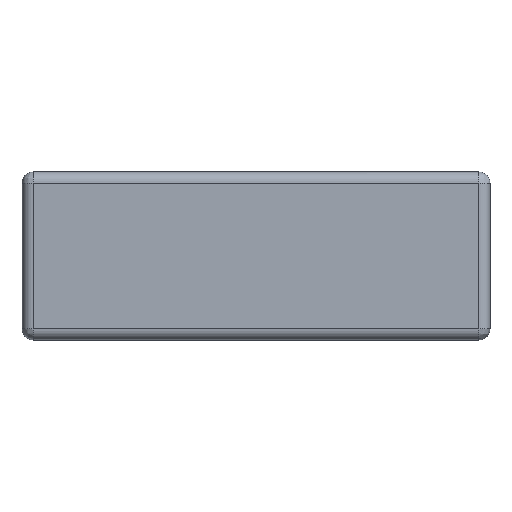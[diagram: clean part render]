
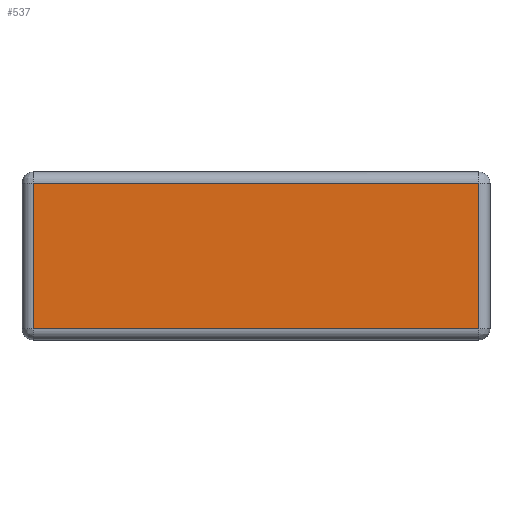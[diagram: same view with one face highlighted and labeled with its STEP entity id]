
A CAD part, top view. The second image highlights one B-rep face of the part: STEP entity #537.
In plain terms, the highlighted planar face has unit normal (0, 0, 1).
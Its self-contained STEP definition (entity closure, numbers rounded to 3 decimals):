
#1 = LINE ( 'NONE', #762, #220 ) ;
#90 = EDGE_LOOP ( 'NONE', ( #606, #177, #790, #582 ) ) ;
#151 = CARTESIAN_POINT ( 'NONE',  ( 39.75, 17., 3. ) ) ;
#161 = EDGE_CURVE ( 'NONE', #811, #247, #431, .T. ) ;
#177 = ORIENTED_EDGE ( 'NONE', *, *, #853, .F. ) ;
#220 = VECTOR ( 'NONE', #539, 1000. ) ;
#221 = PLANE ( 'NONE',  #847 ) ;
#229 = CARTESIAN_POINT ( 'NONE',  ( -39.75, -13., 3. ) ) ;
#247 = VERTEX_POINT ( 'NONE', #852 ) ;
#275 = DIRECTION ( 'NONE',  ( 0., 0., 1. ) ) ;
#289 = DIRECTION ( 'NONE',  ( 1., 0., 0. ) ) ;
#366 = FACE_OUTER_BOUND ( 'NONE', #90, .T. ) ;
#400 = LINE ( 'NONE', #913, #706 ) ;
#431 = LINE ( 'NONE', #568, #646 ) ;
#471 = DIRECTION ( 'NONE',  ( -1., 0., 0. ) ) ;
#490 = EDGE_CURVE ( 'NONE', #652, #811, #1, .T. ) ;
#537 = ADVANCED_FACE ( 'NONE', ( #366 ), #221, .T. ) ;
#539 = DIRECTION ( 'NONE',  ( 0., 1., 0. ) ) ;
#568 = CARTESIAN_POINT ( 'NONE',  ( 43.75, 13., 3. ) ) ;
#571 = DIRECTION ( 'NONE',  ( 1., 0., 0. ) ) ;
#582 = ORIENTED_EDGE ( 'NONE', *, *, #161, .F. ) ;
#606 = ORIENTED_EDGE ( 'NONE', *, *, #490, .F. ) ;
#618 = EDGE_CURVE ( 'NONE', #247, #650, #719, .T. ) ;
#646 = VECTOR ( 'NONE', #289, 1000. ) ;
#650 = VERTEX_POINT ( 'NONE', #865 ) ;
#652 = VERTEX_POINT ( 'NONE', #229 ) ;
#706 = VECTOR ( 'NONE', #471, 1000. ) ;
#715 = DIRECTION ( 'NONE',  ( 0., -1., 0. ) ) ;
#719 = LINE ( 'NONE', #151, #878 ) ;
#762 = CARTESIAN_POINT ( 'NONE',  ( -39.75, -17., 3. ) ) ;
#783 = CARTESIAN_POINT ( 'NONE',  ( 0., 0., 3. ) ) ;
#790 = ORIENTED_EDGE ( 'NONE', *, *, #618, .F. ) ;
#797 = CARTESIAN_POINT ( 'NONE',  ( -39.75, 13., 3. ) ) ;
#811 = VERTEX_POINT ( 'NONE', #797 ) ;
#847 = AXIS2_PLACEMENT_3D ( 'NONE', #783, #275, #571 ) ;
#852 = CARTESIAN_POINT ( 'NONE',  ( 39.75, 13., 3. ) ) ;
#853 = EDGE_CURVE ( 'NONE', #650, #652, #400, .T. ) ;
#865 = CARTESIAN_POINT ( 'NONE',  ( 39.75, -13., 3. ) ) ;
#878 = VECTOR ( 'NONE', #715, 1000. ) ;
#913 = CARTESIAN_POINT ( 'NONE',  ( -43.75, -13., 3. ) ) ;
